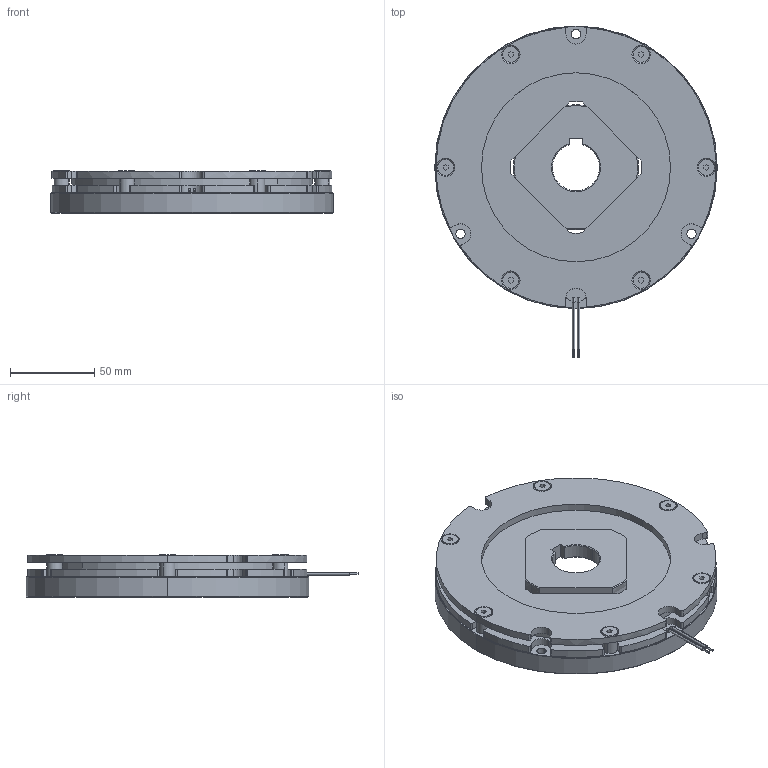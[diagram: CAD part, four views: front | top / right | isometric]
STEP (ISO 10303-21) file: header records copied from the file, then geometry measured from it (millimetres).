
FILE_DESCRIPTION (( 'STEP AP214' ), '1' );
FILE_NAME ('ÌÞÚ°·_BXR-14-10.STEP', '2017-07-31T08:58:54', ( 'MIKI' ), ( '' ), 'SwSTEP 2.0', 'SolidWorks 2012', '' );
FILE_SCHEMA (( 'AUTOMOTIVE_DESIGN' ));
Length unit declared in the file: millimetre
Products named in the file (1): 枌痚愷BXR-14-10
Bounding box: 167.5 x 196.75 x 25.15 mm (x, y, z)
Volume: 399874.8 mm3; surface area: 109118.1 mm2
Topology: 1 solids, 7 shells, 443 faces, 1086 edges, 687 vertices
Faces by surface type: cylinder 207, plane 135, cone 95, torus 6
Entity records: 18150 total; most frequent: DIRECTION 2469, CARTESIAN_POINT 2283, ORIENTED_EDGE 2172, EDGE_CURVE 1086, AXIS2_PLACEMENT_3D 961, VERTEX_POINT 687, VECTOR 547, LINE 547
